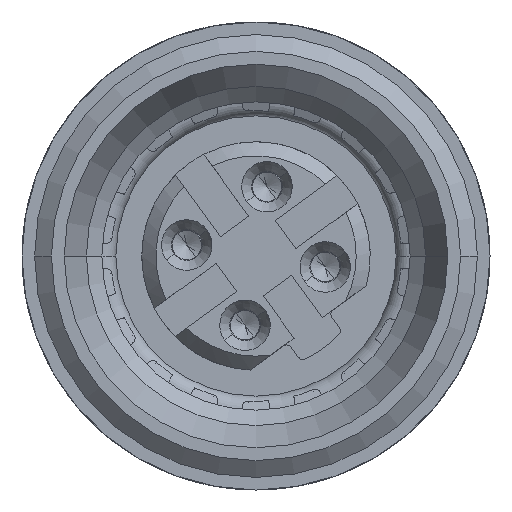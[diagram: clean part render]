
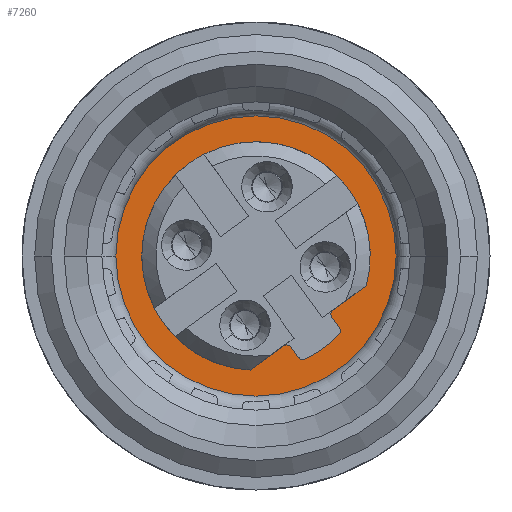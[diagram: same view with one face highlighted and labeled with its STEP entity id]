
A CAD part, left-side view. The second image highlights one B-rep face of the part: STEP entity #7260.
In plain terms, the highlighted planar face has unit normal (-1, 0, 0) as drawn and (0, 0, 1) by its records, which use the part's own axes.
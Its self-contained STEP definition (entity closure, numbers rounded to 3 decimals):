
#5675=CARTESIAN_POINT('',(0.,0.,-9.2));
#5676=DIRECTION('',(0.,0.,-1.));
#5677=DIRECTION('',(0.,1.,0.));
#5678=AXIS2_PLACEMENT_3D('',#5675,#5676,#5677);
#5680=CARTESIAN_POINT('',(0.,0.,-9.2));
#5681=DIRECTION('',(0.,0.,-1.));
#5682=DIRECTION('',(0.,-1.,0.));
#5683=AXIS2_PLACEMENT_3D('',#5680,#5681,#5682);
#5685=CARTESIAN_POINT('',(0.,0.,-9.2));
#5686=DIRECTION('',(0.,0.,1.));
#5687=DIRECTION('',(0.181,0.984,0.));
#5688=AXIS2_PLACEMENT_3D('',#5685,#5686,#5687);
#5690=CARTESIAN_POINT('',(-0.7,3.811,-9.2));
#5691=DIRECTION('',(0.,0.,1.));
#5692=DIRECTION('',(-0.181,0.984,0.));
#5693=AXIS2_PLACEMENT_3D('',#5690,#5691,#5692);
#5695=DIRECTION('',(0.,-1.,0.));
#5696=VECTOR('',#5695,0.441);
#5697=CARTESIAN_POINT('',(-0.9,3.811,-9.2));
#5698=LINE('',#5697,#5696);
#5699=CARTESIAN_POINT('',(-1.1,3.37,-9.2));
#5700=DIRECTION('',(0.,0.,-1.));
#5701=DIRECTION('',(1.,0.,0.));
#5702=AXIS2_PLACEMENT_3D('',#5699,#5700,#5701);
#5704=CARTESIAN_POINT('',(0.,0.,-9.2));
#5705=DIRECTION('',(0.,0.,1.));
#5706=DIRECTION('',(-0.628,0.778,0.));
#5707=AXIS2_PLACEMENT_3D('',#5704,#5705,#5706);
#5709=CARTESIAN_POINT('',(0.,0.,-9.2));
#5710=DIRECTION('',(0.,0.,1.));
#5711=DIRECTION('',(0.,-1.,0.));
#5712=AXIS2_PLACEMENT_3D('',#5709,#5710,#5711);
#5714=CARTESIAN_POINT('',(1.1,3.37,-9.2));
#5715=DIRECTION('',(0.,0.,-1.));
#5716=DIRECTION('',(0.,-1.,0.));
#5717=AXIS2_PLACEMENT_3D('',#5714,#5715,#5716);
#5719=DIRECTION('',(0.,1.,0.));
#5720=VECTOR('',#5719,0.441);
#5721=CARTESIAN_POINT('',(0.9,3.37,-9.2));
#5722=LINE('',#5721,#5720);
#5723=CARTESIAN_POINT('',(0.7,3.811,-9.2));
#5724=DIRECTION('',(0.,0.,1.));
#5725=DIRECTION('',(1.,0.,0.));
#5726=AXIS2_PLACEMENT_3D('',#5723,#5724,#5725);
#5752=DIRECTION('',(1.,0.,0.));
#5753=VECTOR('',#5752,1.461);
#5754=CARTESIAN_POINT('',(1.1,3.17,-9.2));
#5755=LINE('',#5754,#5753);
#5792=DIRECTION('',(1.,0.,0.));
#5793=VECTOR('',#5792,1.461);
#5794=CARTESIAN_POINT('',(-2.561,3.17,-9.2));
#5795=LINE('',#5794,#5793);
#6771=CARTESIAN_POINT('',(0.,5.5,-9.2));
#6772=VERTEX_POINT('',#6771);
#6773=CARTESIAN_POINT('',(0.,-5.5,-9.2));
#6774=VERTEX_POINT('',#6773);
#6775=CARTESIAN_POINT('',(0.736,4.008,-9.2));
#6776=CARTESIAN_POINT('',(-0.736,4.008,-9.2));
#6777=VERTEX_POINT('',#6775);
#6778=VERTEX_POINT('',#6776);
#6779=CARTESIAN_POINT('',(-0.9,3.811,-9.2));
#6780=VERTEX_POINT('',#6779);
#6781=CARTESIAN_POINT('',(-0.9,3.37,-9.2));
#6782=VERTEX_POINT('',#6781);
#6783=CARTESIAN_POINT('',(-1.1,3.17,-9.2));
#6784=VERTEX_POINT('',#6783);
#6785=CARTESIAN_POINT('',(-2.561,3.17,-9.2));
#6786=VERTEX_POINT('',#6785);
#6787=CARTESIAN_POINT('',(0.,-4.075,-9.2));
#6788=VERTEX_POINT('',#6787);
#6789=CARTESIAN_POINT('',(2.561,3.17,-9.2));
#6790=VERTEX_POINT('',#6789);
#6791=CARTESIAN_POINT('',(1.1,3.17,-9.2));
#6792=VERTEX_POINT('',#6791);
#6793=CARTESIAN_POINT('',(0.9,3.37,-9.2));
#6794=VERTEX_POINT('',#6793);
#6795=CARTESIAN_POINT('',(0.9,3.811,-9.2));
#6796=VERTEX_POINT('',#6795);
#7227=CARTESIAN_POINT('',(0.,0.,-9.2));
#7228=DIRECTION('',(0.,0.,-1.));
#7229=DIRECTION('',(0.,-1.,0.));
#7230=AXIS2_PLACEMENT_3D('',#7227,#7228,#7229);
#7231=PLANE('',#7230);
#7232=ORIENTED_EDGE('',*,*,#7222,.T.);
#7233=ORIENTED_EDGE('',*,*,#7206,.T.);
#7234=EDGE_LOOP('',(#7232,#7233));
#7235=FACE_OUTER_BOUND('',#7234,.F.);
#7237=ORIENTED_EDGE('',*,*,#7236,.T.);
#7239=ORIENTED_EDGE('',*,*,#7238,.T.);
#7241=ORIENTED_EDGE('',*,*,#7240,.T.);
#7243=ORIENTED_EDGE('',*,*,#7242,.T.);
#7245=ORIENTED_EDGE('',*,*,#7244,.F.);
#7247=ORIENTED_EDGE('',*,*,#7246,.T.);
#7249=ORIENTED_EDGE('',*,*,#7248,.T.);
#7251=ORIENTED_EDGE('',*,*,#7250,.F.);
#7253=ORIENTED_EDGE('',*,*,#7252,.T.);
#7255=ORIENTED_EDGE('',*,*,#7254,.T.);
#7257=ORIENTED_EDGE('',*,*,#7256,.T.);
#7258=EDGE_LOOP('',(#7237,#7239,#7241,#7243,#7245,#7247,#7249,#7251,#7253,#7255,
#7257));
#7259=FACE_BOUND('',#7258,.F.);
#7260=ADVANCED_FACE('',(#7235,#7259),#7231,.F.);
#5679=CIRCLE('',#5678,5.5);
#5684=CIRCLE('',#5683,5.5);
#5689=CIRCLE('',#5688,4.075);
#5694=CIRCLE('',#5693,0.2);
#5703=CIRCLE('',#5702,0.2);
#5708=CIRCLE('',#5707,4.075);
#5713=CIRCLE('',#5712,4.075);
#5718=CIRCLE('',#5717,0.2);
#5727=CIRCLE('',#5726,0.2);
#7206=EDGE_CURVE('',#6774,#6772,#5684,.T.);
#7222=EDGE_CURVE('',#6772,#6774,#5679,.T.);
#7236=EDGE_CURVE('',#6777,#6778,#5689,.T.);
#7238=EDGE_CURVE('',#6778,#6780,#5694,.T.);
#7240=EDGE_CURVE('',#6780,#6782,#5698,.T.);
#7242=EDGE_CURVE('',#6782,#6784,#5703,.T.);
#7244=EDGE_CURVE('',#6786,#6784,#5795,.T.);
#7246=EDGE_CURVE('',#6786,#6788,#5708,.T.);
#7248=EDGE_CURVE('',#6788,#6790,#5713,.T.);
#7250=EDGE_CURVE('',#6792,#6790,#5755,.T.);
#7252=EDGE_CURVE('',#6792,#6794,#5718,.T.);
#7254=EDGE_CURVE('',#6794,#6796,#5722,.T.);
#7256=EDGE_CURVE('',#6796,#6777,#5727,.T.);
